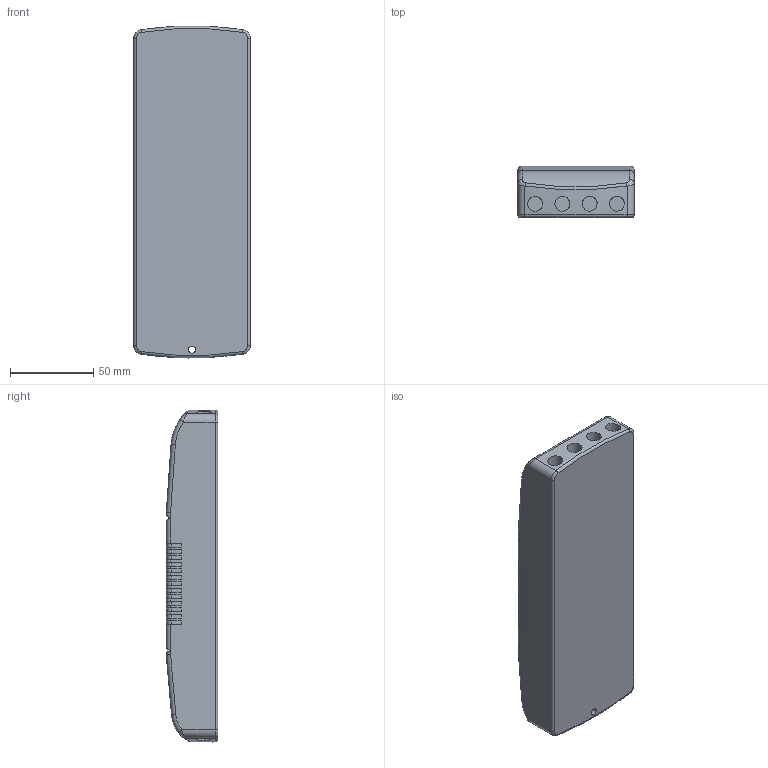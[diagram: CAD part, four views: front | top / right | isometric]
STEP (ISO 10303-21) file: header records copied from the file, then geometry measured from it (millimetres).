
FILE_DESCRIPTION((''),'2;1');
FILE_NAME('15007697_ZCI3','2013-06-12T',('erich.spiegel'),(''),'PRO/ENGINEER BY PARAMETRIC TECHNOLOGY CORPORATION, 2012420','PRO/ENGINEER BY PARAMETRIC TECHNOLOGY CORPORATION, 2012420','');
FILE_SCHEMA(('AUTOMOTIVE_DESIGN { 1 2 10303 214 0 1 1 1 }'));
Length unit declared in the file: millimetre
Products named in the file (1): 15007697_ZCI3
Bounding box: 70 x 31 x 199.95 mm (x, y, z)
Volume: 394937.7 mm3; surface area: 45220.3 mm2
Topology: 1 solids, 1 shells, 292 faces, 819 edges, 534 vertices
Faces by surface type: plane 150, cylinder 117, torus 13, bspline 10, sphere 2
Entity records: 12934 total; most frequent: CARTESIAN_POINT 2762, ORIENTED_EDGE 1638, DIRECTION 1548, PRESENTATION_STYLE_ASSIGNMENT 820, STYLED_ITEM 820, CURVE_STYLE 819, EDGE_CURVE 819, VECTOR 534
